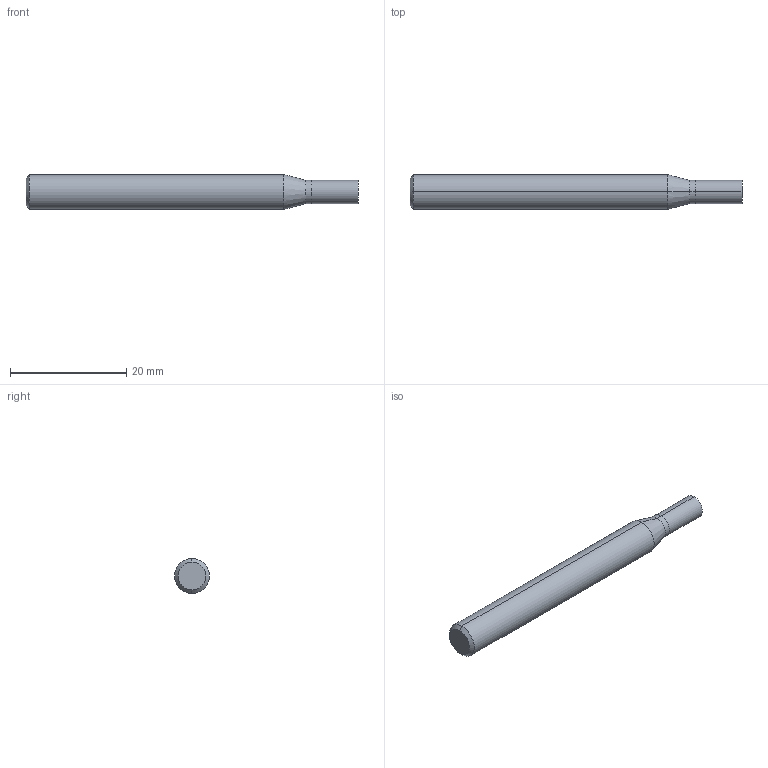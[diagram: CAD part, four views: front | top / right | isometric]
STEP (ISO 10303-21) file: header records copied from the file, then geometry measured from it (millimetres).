
FILE_DESCRIPTION (( 'STEP AP214' ), '1' );
FILE_NAME ('G9447040.STEP', '2018-07-02T09:41:46', ( '' ), ( '' ), 'SwSTEP 2.0', 'SolidWorks 2014', '' );
FILE_SCHEMA (( 'AUTOMOTIVE_DESIGN' ));
Length unit declared in the file: millimetre
Products named in the file (1): G9447040
Bounding box: 57 x 6 x 6 mm (x, y, z)
Volume: 1435.8 mm3; surface area: 1067.1 mm2
Topology: 2 solids, 2 shells, 14 faces, 24 edges, 14 vertices
Faces by surface type: cylinder 6, cone 4, plane 4
Entity records: 421 total; most frequent: DIRECTION 68, CARTESIAN_POINT 53, ORIENTED_EDGE 48, AXIS2_PLACEMENT_3D 29, EDGE_CURVE 24, ADVANCED_FACE 14, CIRCLE 14, FACE_OUTER_BOUND 14
